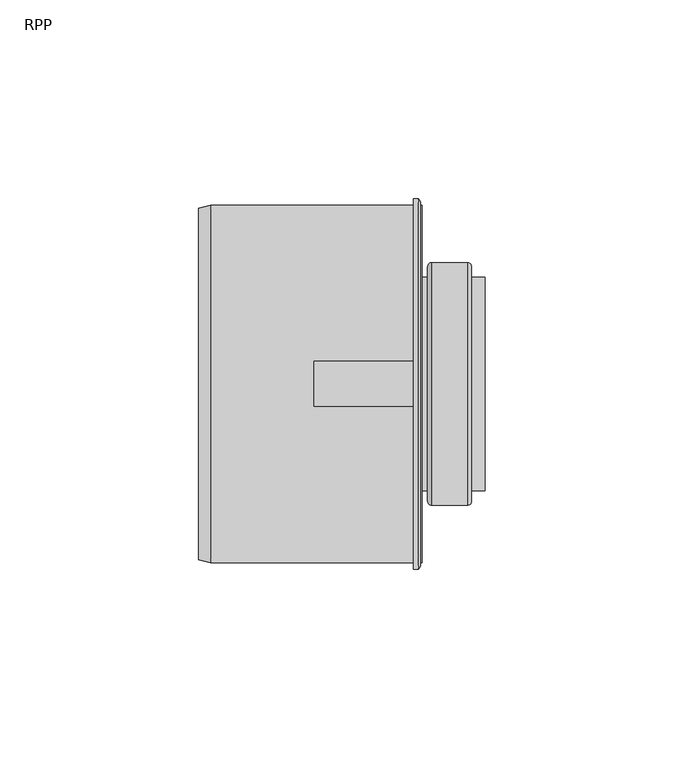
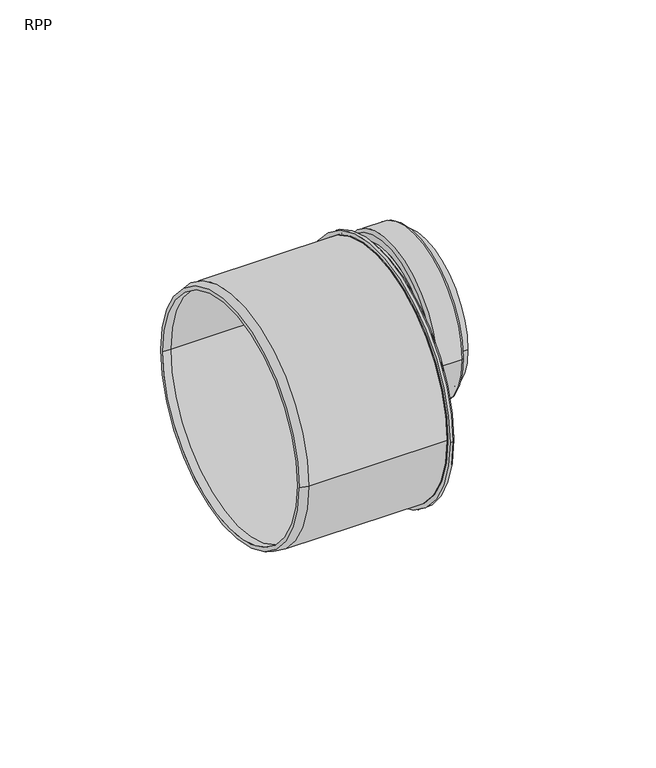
"""IFC4 building model written with IfcOpenShell, lengths in millimetres: pipe fitting geometry, RAUPIANO PLUS Short Reducer : RPP."""

from ifc_helpers import new_model, si_unit, point, frame, frame_2d, origin, origin_2d, place, context, project, spatial, polyline, circle_curve, ellipse_curve, trimmed, segment, composite_curve, outline, extrude, source, transform, mapped, element, save
from ifc_brep_helpers import plane_surface, cylinder_surface, revolved_surface, advanced_brep


def rpp_5c4de2d1(model_context):
    return source(origin(), model_context, "Body", "SolidModel", [
        extrude(outline(composite_curve([segment(trimmed(circle_curve(origin_2d(), 45.0), [point((-45.0, 0.0))], [point((45.0, 0.0))], False, "CARTESIAN"), True, "CONTINUOUS"), segment(trimmed(circle_curve(origin_2d(), 45.0), [point((45.0, 0.0))], [point((-45.0, 0.0))], False, "CARTESIAN"), True, "CONTINUOUS")], self_intersect=False), holes=[composite_curve([segment(trimmed(circle_curve(frame_2d((0.0, 17.8)), 25.0), [point((-25.0, 17.8))], [point((25.0, 17.8))], True, "CARTESIAN"), True, "CONTINUOUS"), segment(trimmed(circle_curve(frame_2d((0.0, 17.8)), 25.0), [point((25.0, 17.8))], [point((-25.0, 17.8))], True, "CARTESIAN"), True, "CONTINUOUS")], self_intersect=False)]), frame((0.0, 0.0, 0.0), z_axis=(1.0, 0.0, 0.0), x_axis=(0.0, 1.0, 0.0)), (0.0, 0.0, 1.0), 2.2),
        advanced_brep(
        [(0.0, 45.0, 0.0), (0.0, -45.0, 0.0), (1.8, -45.0, 0.0), (1.8, 45.0, 0.0), (1.8, 45.8680651, 0.0), (1.8, -45.8680651, 0.0), (0.0, -46.5429328, 0.0), (0.0, 46.5429328, 0.0), (1.2520203, -46.5429328, 0.0), (1.2520203, 46.5429328, 0.0)],
        [
            (0, 1, circle_curve(frame((0.0, 0.0, 0.0), z_axis=(-1.0, 0.0, 0.0), x_axis=(0.0, -1.0, 0.0)), 45.0)),
            (1, 2),
            (2, 3, circle_curve(frame((1.8, 0.0, 0.0), z_axis=(1.0, 0.0, 0.0), x_axis=(0.0, -1.0, 0.0)), 45.0)),
            (3, 0),
            (1, 0, circle_curve(frame((0.0, 0.0, 0.0), z_axis=(-1.0, 0.0, 0.0), x_axis=(0.0, 1.0, 0.0)), 45.0)),
            (3, 2, circle_curve(frame((1.8, 0.0, 0.0), z_axis=(1.0, 0.0, 0.0), x_axis=(0.0, 1.0, 0.0)), 45.0)),
            (4, 5, circle_curve(frame((1.8, 0.0, 0.0), z_axis=(1.0, 0.0, 0.0), x_axis=(0.0, 1.0, 0.0)), 45.8680651)),
            (5, 4, circle_curve(frame((1.8, 0.0, 0.0), z_axis=(1.0, 0.0, 0.0), x_axis=(0.0, -1.0, 0.0)), 45.8680651)),
            (6, 7, circle_curve(frame((0.0, 0.0, 0.0), z_axis=(-1.0, 0.0, 0.0), x_axis=(0.0, 1.0, 0.0)), 46.5429328)),
            (7, 6, circle_curve(frame((0.0, 0.0, 0.0), z_axis=(-1.0, 0.0, 0.0), x_axis=(0.0, -1.0, 0.0)), 46.5429328)),
            (5, 8),
            (8, 9, circle_curve(frame((1.2520203, 0.0, 0.0), z_axis=(1.0, 0.0, 0.0), x_axis=(0.0, -1.0, 0.0)), 46.5429328)),
            (9, 4),
            (8, 6),
            (7, 9),
            (9, 8, circle_curve(frame((1.2520203, 0.0, 0.0), z_axis=(1.0, 0.0, 0.0), x_axis=(0.0, 1.0, 0.0)), 46.5429328)),
        ],
        [
            revolved_surface(polyline([(1.8, -45.0, 0.0), (0.0, -45.0, 0.0)]), (0.0, 0.0, 0.0), (1.0, 0.0, 0.0)),
            revolved_surface(polyline([(1.8, 45.0, 0.0), (0.0, 45.0, 0.0)]), (0.0, 0.0, 0.0), (1.0, 0.0, 0.0)),
            plane_surface(frame((1.8, 0.0, 0.0), z_axis=(1.0, 0.0, 0.0), x_axis=(0.0, 1.0, 0.0))),
            plane_surface(frame((0.0, 0.0, 0.0), z_axis=(-1.0, 0.0, 0.0), x_axis=(0.0, 1.0, 0.0))),
            revolved_surface(polyline([(1.2520203, -46.5429328, 0.0), (1.8, -45.8680651, 0.0)]), (0.0, 0.0, 0.0), (1.0, 0.0, 0.0)),
            cylinder_surface(frame((0.0, 0.0, 0.0), z_axis=(1.0, 0.0, 0.0), x_axis=(0.0, -1.0, 0.0)), 46.5429328),
            revolved_surface(polyline([(1.2520203, 46.5429328, 0.0), (1.8, 45.8680651, 0.0)]), (0.0, 0.0, 0.0), (1.0, 0.0, 0.0)),
            cylinder_surface(frame((0.0, 0.0, 0.0), z_axis=(1.0, 0.0, 0.0), x_axis=(0.0, 1.0, 0.0)), 46.5429328),
        ],
        [
            (0, [[1, 2, 3, 4]]),
            (1, [[5, -4, 6, -2]]),
            (2, [[7, 8], [-6, -3]]),
            (3, [[9, 10], [-5, -1]]),
            (4, [[-8, 11, 12, 13]]),
            (5, [[-12, 14, -10, 15]]),
            (6, [[-7, -13, 16, -11]]),
            (7, [[-16, -15, -9, -14]]),
        ],
    ),
        advanced_brep(
        [(3.6, 26.8, 17.8), (3.6, -26.8, 17.8), (-25.0, -26.8, 17.8), (-25.0, 26.8, 17.8), (18.0, 26.8, 17.8), (18.0, -26.8, 17.8), (14.6, -26.8, 17.8), (14.6, 26.8, 17.8), (12.6, 25.0, 17.8), (12.6, -25.0, 17.8), (18.0, -25.0, 17.8), (18.0, 25.0, 17.8), (-23.2, 25.0, 17.8), (-23.2, -25.0, 17.8), (5.6, -25.0, 17.8), (5.6, 25.0, 17.8), (12.6, -28.5, 17.8), (12.6, 28.5, 17.8), (4.6, 30.5, 17.8), (4.6, -30.5, 17.8), (3.6, -29.5, 17.8), (3.6, 29.5, 17.8), (13.6, 30.5, 17.8), (13.6, -30.5, 17.8), (14.6, 29.5, 17.8), (14.6, -29.5, 17.8), (5.6, 28.5, 17.8), (5.6, -28.5, 17.8), (-25.0, 22.8, 17.8), (-25.0, -22.8, 17.8), (-23.2, -22.8, 17.8), (-23.2, 22.8, 17.8)],
        [
            (0, 1, circle_curve(frame((3.6, 0.0, 17.8), z_axis=(-1.0, 0.0, 0.0), x_axis=(0.0, -1.0, 0.0)), 26.8)),
            (1, 2),
            (2, 3, circle_curve(frame((-25.0, 0.0, 17.8), z_axis=(1.0, 0.0, 0.0), x_axis=(0.0, -1.0, 0.0)), 26.8)),
            (3, 0),
            (4, 5, circle_curve(frame((18.0, 0.0, 17.8), z_axis=(-1.0, 0.0, 0.0), x_axis=(0.0, -1.0, 0.0)), 26.8)),
            (5, 6),
            (6, 7, circle_curve(frame((14.6, 0.0, 17.8), z_axis=(1.0, 0.0, 0.0), x_axis=(0.0, -1.0, 0.0)), 26.8)),
            (7, 4),
            (8, 9, circle_curve(frame((12.6, 0.0, 17.8), z_axis=(-1.0, 0.0, 0.0), x_axis=(0.0, -1.0, 0.0)), 25.0)),
            (9, 10),
            (10, 11, circle_curve(frame((18.0, 0.0, 17.8), z_axis=(1.0, 0.0, 0.0), x_axis=(0.0, -1.0, 0.0)), 25.0)),
            (11, 8),
            (12, 13, circle_curve(frame((-23.2, 0.0, 17.8), z_axis=(-1.0, 0.0, 0.0), x_axis=(0.0, -1.0, 0.0)), 25.0)),
            (13, 14),
            (14, 15, circle_curve(frame((5.6, 0.0, 17.8), z_axis=(1.0, 0.0, 0.0), x_axis=(0.0, -1.0, 0.0)), 25.0)),
            (15, 12),
            (1, 0, circle_curve(frame((3.6, 0.0, 17.8), z_axis=(-1.0, 0.0, 0.0), x_axis=(0.0, 1.0, 0.0)), 26.8)),
            (3, 2, circle_curve(frame((-25.0, 0.0, 17.8), z_axis=(1.0, 0.0, 0.0), x_axis=(0.0, 1.0, 0.0)), 26.8)),
            (5, 4, circle_curve(frame((18.0, 0.0, 17.8), z_axis=(-1.0, 0.0, 0.0), x_axis=(0.0, 1.0, 0.0)), 26.8)),
            (7, 6, circle_curve(frame((14.6, 0.0, 17.8), z_axis=(1.0, 0.0, 0.0), x_axis=(0.0, 1.0, 0.0)), 26.8)),
            (10, 11, circle_curve(frame((18.0, 0.0, 17.8), z_axis=(-1.0, 0.0, 0.0), x_axis=(0.0, 1.0, 0.0)), 25.0)),
            (9, 8, circle_curve(frame((12.6, 0.0, 17.8), z_axis=(-1.0, 0.0, 0.0), x_axis=(0.0, 1.0, 0.0)), 25.0)),
            (13, 12, circle_curve(frame((-23.2, 0.0, 17.8), z_axis=(-1.0, 0.0, 0.0), x_axis=(0.0, 1.0, 0.0)), 25.0)),
            (15, 14, circle_curve(frame((5.6, 0.0, 17.8), z_axis=(1.0, 0.0, 0.0), x_axis=(0.0, 1.0, 0.0)), 25.0)),
            (16, 17, circle_curve(frame((12.6, 0.0, 17.8), z_axis=(-1.0, 0.0, 0.0), x_axis=(0.0, 1.0, 0.0)), 28.5)),
            (17, 16, circle_curve(frame((12.6, 0.0, 17.8), z_axis=(-1.0, 0.0, 0.0), x_axis=(0.0, -1.0, 0.0)), 28.5)),
            (18, 19, circle_curve(frame((4.6, 0.0, 17.8), z_axis=(-1.0, 0.0, 0.0), x_axis=(0.0, -1.0, 0.0)), 30.5)),
            (19, 20, circle_curve(frame((4.6, -29.5, 17.8), z_axis=(0.0, 0.0, -1.0), x_axis=(1.0, 0.0, 0.0)), 1.0)),
            (20, 21, circle_curve(frame((3.6, 0.0, 17.8), z_axis=(1.0, 0.0, 0.0), x_axis=(0.0, -1.0, 0.0)), 29.5)),
            (21, 18, circle_curve(frame((4.6, 29.5, 17.8), z_axis=(0.0, 0.0, -1.0), x_axis=(1.0, 0.0, 0.0)), 1.0)),
            (22, 23, circle_curve(frame((13.6, 0.0, 17.8), z_axis=(-1.0, 0.0, 0.0), x_axis=(0.0, -1.0, 0.0)), 30.5)),
            (23, 19),
            (18, 22),
            (24, 25, circle_curve(frame((14.6, 0.0, 17.8), z_axis=(-1.0, 0.0, 0.0), x_axis=(0.0, -1.0, 0.0)), 29.5)),
            (25, 23, circle_curve(frame((13.6, -29.5, 17.8), z_axis=(0.0, 0.0, -1.0), x_axis=(1.0, 0.0, 0.0)), 1.0)),
            (22, 24, circle_curve(frame((13.6, 29.5, 17.8), z_axis=(0.0, 0.0, -1.0), x_axis=(1.0, 0.0, 0.0)), 1.0)),
            (20, 21, circle_curve(frame((3.6, 0.0, 17.8), z_axis=(-1.0, 0.0, 0.0), x_axis=(0.0, 1.0, 0.0)), 29.5)),
            (19, 18, circle_curve(frame((4.6, 0.0, 17.8), z_axis=(-1.0, 0.0, 0.0), x_axis=(0.0, 1.0, 0.0)), 30.5)),
            (23, 22, circle_curve(frame((13.6, 0.0, 17.8), z_axis=(-1.0, 0.0, 0.0), x_axis=(0.0, 1.0, 0.0)), 30.5)),
            (25, 24, circle_curve(frame((14.6, 0.0, 17.8), z_axis=(-1.0, 0.0, 0.0), x_axis=(0.0, 1.0, 0.0)), 29.5)),
            (26, 27, circle_curve(frame((5.6, 0.0, 17.8), z_axis=(-1.0, 0.0, 0.0), x_axis=(0.0, -1.0, 0.0)), 28.5)),
            (27, 16),
            (17, 26),
            (28, 29, circle_curve(frame((-25.0, 0.0, 17.8), z_axis=(-1.0, 0.0, 0.0), x_axis=(0.0, -1.0, 0.0)), 22.8)),
            (29, 30),
            (30, 31, circle_curve(frame((-23.2, 0.0, 17.8), z_axis=(1.0, 0.0, 0.0), x_axis=(0.0, -1.0, 0.0)), 22.8)),
            (31, 28),
            (27, 26, circle_curve(frame((5.6, 0.0, 17.8), z_axis=(-1.0, 0.0, 0.0), x_axis=(0.0, 1.0, 0.0)), 28.5)),
            (30, 31, circle_curve(frame((-23.2, 0.0, 17.8), z_axis=(-1.0, 0.0, 0.0), x_axis=(0.0, 1.0, 0.0)), 22.8)),
            (29, 28, circle_curve(frame((-25.0, 0.0, 17.8), z_axis=(-1.0, 0.0, 0.0), x_axis=(0.0, 1.0, 0.0)), 22.8)),
        ],
        [
            cylinder_surface(frame((0.0, 0.0, 17.8), z_axis=(1.0, 0.0, 0.0), x_axis=(0.0, -1.0, 0.0)), 26.8),
            revolved_surface(polyline([(18.0, -25.0, 17.8), (12.6, -25.0, 17.8)]), (0.0, 0.0, 17.8), (1.0, 0.0, 0.0)),
            revolved_surface(polyline([(5.6, -25.0, 17.8), (-23.2, -25.0, 17.8)]), (0.0, 0.0, 17.8), (1.0, 0.0, 0.0)),
            cylinder_surface(frame((0.0, 0.0, 17.8), z_axis=(1.0, 0.0, 0.0), x_axis=(0.0, 1.0, 0.0)), 26.8),
            plane_surface(frame((18.0, 0.0, 17.8), z_axis=(1.0, 0.0, 0.0), x_axis=(0.0, 1.0, 0.0))),
            revolved_surface(polyline([(18.0, 25.0, 17.8), (12.6, 25.0, 17.8)]), (0.0, 0.0, 17.8), (1.0, 0.0, 0.0)),
            revolved_surface(polyline([(5.6, 25.0, 17.8), (-23.2, 25.0, 17.8)]), (0.0, 0.0, 17.8), (1.0, 0.0, 0.0)),
            plane_surface(frame((12.6, 0.0, 17.8), z_axis=(-1.0, 0.0, 0.0), x_axis=(0.0, 1.0, 0.0))),
            revolved_surface(trimmed(ellipse_curve(frame((4.6, -29.5, 17.8), z_axis=(0.0, 0.0, 1.0), x_axis=(1.0, 0.0, 0.0)), 1.0, 1.0), [point((3.6, -29.5, 17.8))], [point((4.6, -30.5, 17.8))], True, "CARTESIAN"), (0.0, 0.0, 17.8), (1.0, 0.0, 0.0)),
            cylinder_surface(frame((0.0, 0.0, 17.8), z_axis=(1.0, 0.0, 0.0), x_axis=(0.0, -1.0, 0.0)), 30.5),
            revolved_surface(trimmed(ellipse_curve(frame((13.6, -29.5, 17.8), z_axis=(0.0, 0.0, 1.0), x_axis=(1.0, 0.0, 0.0)), 1.0, 1.0), [point((13.6, -30.5, 17.8))], [point((14.6, -29.5, 17.8))], True, "CARTESIAN"), (0.0, 0.0, 17.8), (1.0, 0.0, 0.0)),
            plane_surface(frame((3.6, 0.0, 17.8), z_axis=(-1.0, 0.0, 0.0), x_axis=(0.0, 1.0, 0.0))),
            revolved_surface(trimmed(ellipse_curve(frame((4.6, 29.5, 17.8), z_axis=(0.0, 0.0, -1.0), x_axis=(1.0, 0.0, 0.0)), 1.0, 1.0), [point((3.6, 29.5, 17.8))], [point((4.6, 30.5, 17.8))], True, "CARTESIAN"), (0.0, 0.0, 17.8), (1.0, 0.0, 0.0)),
            cylinder_surface(frame((0.0, 0.0, 17.8), z_axis=(1.0, 0.0, 0.0), x_axis=(0.0, 1.0, 0.0)), 30.5),
            revolved_surface(trimmed(ellipse_curve(frame((13.6, 29.5, 17.8), z_axis=(0.0, 0.0, -1.0), x_axis=(1.0, 0.0, 0.0)), 1.0, 1.0), [point((13.6, 30.5, 17.8))], [point((14.6, 29.5, 17.8))], True, "CARTESIAN"), (0.0, 0.0, 17.8), (1.0, 0.0, 0.0)),
            plane_surface(frame((14.6, 0.0, 17.8), z_axis=(1.0, 0.0, 0.0), x_axis=(0.0, 1.0, 0.0))),
            revolved_surface(polyline([(12.6, -28.5, 17.8), (5.6, -28.5, 17.8)]), (0.0, 0.0, 17.8), (1.0, 0.0, 0.0)),
            revolved_surface(polyline([(-23.2, -22.8, 17.8), (-25.0, -22.8, 17.8)]), (0.0, 0.0, 17.8), (1.0, 0.0, 0.0)),
            revolved_surface(polyline([(12.6, 28.5, 17.8), (5.6, 28.5, 17.8)]), (0.0, 0.0, 17.8), (1.0, 0.0, 0.0)),
            plane_surface(frame((5.6, 0.0, 17.8), z_axis=(1.0, 0.0, 0.0), x_axis=(0.0, 1.0, 0.0))),
            plane_surface(frame((-23.2, 0.0, 17.8), z_axis=(1.0, 0.0, 0.0), x_axis=(0.0, 1.0, 0.0))),
            revolved_surface(polyline([(-23.2, 22.8, 17.8), (-25.0, 22.8, 17.8)]), (0.0, 0.0, 17.8), (1.0, 0.0, 0.0)),
            plane_surface(frame((-25.0, 0.0, 17.8), z_axis=(-1.0, 0.0, 0.0), x_axis=(0.0, 1.0, 0.0))),
        ],
        [
            (0, [[1, 2, 3, 4]]),
            (0, [[5, 6, 7, 8]]),
            (1, [[9, 10, 11, 12]]),
            (2, [[13, 14, 15, 16]]),
            (3, [[17, -4, 18, -2]]),
            (3, [[19, -8, 20, -6]]),
            (4, [[-19, -5], [21, -11]]),
            (5, [[22, -12, -21, -10]]),
            (6, [[23, -16, 24, -14]]),
            (7, [[25, 26], [-22, -9]]),
            (8, [[27, 28, 29, 30]]),
            (9, [[31, 32, -27, 33]]),
            (10, [[34, 35, -31, 36]]),
            (11, [[37, -29], [-17, -1]]),
            (12, [[38, -30, -37, -28]]),
            (13, [[39, -33, -38, -32]]),
            (14, [[40, -36, -39, -35]]),
            (15, [[-40, -34], [-20, -7]]),
            (16, [[41, 42, -26, 43]]),
            (17, [[44, 45, 46, 47]]),
            (18, [[48, -43, -25, -42]]),
            (19, [[-48, -41], [-24, -15]]),
            (20, [[-23, -13], [49, -46]]),
            (21, [[50, -47, -49, -45]]),
            (22, [[-18, -3], [-50, -44]]),
        ],
    ),
        advanced_brep(
        [(-51.0, 42.8, 0.0), (-51.0, -42.8, 0.0), (0.0, -42.8, 0.0), (0.0, 42.8, 0.0), (-54.0, 42.8, 0.0), (-54.0, -42.8, 0.0), (-51.0, 45.0, 0.0), (-51.0, -45.0, 0.0), (-54.0, -44.1961524, 0.0), (-54.0, 44.1961524, 0.0), (0.0, 45.0, 0.0), (0.0, -45.0, 0.0)],
        [
            (0, 1, circle_curve(frame((-51.0, 0.0, 0.0), z_axis=(-1.0, 0.0, 0.0), x_axis=(0.0, -1.0, 0.0)), 42.8)),
            (1, 2),
            (2, 3, circle_curve(frame((0.0, 0.0, 0.0), z_axis=(1.0, 0.0, 0.0), x_axis=(0.0, -1.0, 0.0)), 42.8)),
            (3, 0),
            (4, 5, circle_curve(frame((-54.0, 0.0, 0.0), z_axis=(-1.0, 0.0, 0.0), x_axis=(0.0, -1.0, 0.0)), 42.8)),
            (5, 1),
            (0, 4),
            (6, 7, circle_curve(frame((-51.0, 0.0, 0.0), z_axis=(-1.0, 0.0, 0.0), x_axis=(0.0, -1.0, 0.0)), 45.0)),
            (7, 8),
            (8, 9, circle_curve(frame((-54.0, 0.0, 0.0), z_axis=(1.0, 0.0, 0.0), x_axis=(0.0, -1.0, 0.0)), 44.1961524)),
            (9, 6),
            (10, 11, circle_curve(frame((0.0, 0.0, 0.0), z_axis=(-1.0, 0.0, 0.0), x_axis=(0.0, -1.0, 0.0)), 45.0)),
            (11, 7),
            (6, 10),
            (10, 11, circle_curve(frame((0.0, 0.0, 0.0), z_axis=(1.0, 0.0, 0.0), x_axis=(0.0, 1.0, 0.0)), 45.0)),
            (2, 3, circle_curve(frame((0.0, 0.0, 0.0), z_axis=(-1.0, 0.0, 0.0), x_axis=(0.0, 1.0, 0.0)), 42.8)),
            (1, 0, circle_curve(frame((-51.0, 0.0, 0.0), z_axis=(-1.0, 0.0, 0.0), x_axis=(0.0, 1.0, 0.0)), 42.8)),
            (5, 4, circle_curve(frame((-54.0, 0.0, 0.0), z_axis=(-1.0, 0.0, 0.0), x_axis=(0.0, 1.0, 0.0)), 42.8)),
            (8, 9, circle_curve(frame((-54.0, 0.0, 0.0), z_axis=(-1.0, 0.0, 0.0), x_axis=(0.0, 1.0, 0.0)), 44.1961524)),
            (7, 6, circle_curve(frame((-51.0, 0.0, 0.0), z_axis=(-1.0, 0.0, 0.0), x_axis=(0.0, 1.0, 0.0)), 45.0)),
        ],
        [
            revolved_surface(polyline([(0.0, -42.8, 0.0), (-51.0, -42.8, 0.0)]), (0.0, 0.0, 0.0), (1.0, 0.0, 0.0)),
            revolved_surface(polyline([(-51.0, -42.8, 0.0), (-54.0, -42.8, 0.0)]), (0.0, 0.0, 0.0), (1.0, 0.0, 0.0)),
            revolved_surface(polyline([(-54.0, -44.1961524, 0.0), (-51.0, -45.0, 0.0)]), (0.0, 0.0, 0.0), (1.0, 0.0, 0.0)),
            cylinder_surface(frame((0.0, 0.0, 0.0), z_axis=(1.0, 0.0, 0.0), x_axis=(0.0, -1.0, 0.0)), 45.0),
            plane_surface(frame((0.0, 0.0, 0.0), z_axis=(1.0, 0.0, 0.0), x_axis=(0.0, 1.0, 0.0))),
            revolved_surface(polyline([(0.0, 42.8, 0.0), (-51.0, 42.8, 0.0)]), (0.0, 0.0, 0.0), (1.0, 0.0, 0.0)),
            revolved_surface(polyline([(-51.0, 42.8, 0.0), (-54.0, 42.8, 0.0)]), (0.0, 0.0, 0.0), (1.0, 0.0, 0.0)),
            plane_surface(frame((-54.0, 0.0, 0.0), z_axis=(-1.0, 0.0, 0.0), x_axis=(0.0, 1.0, 0.0))),
            revolved_surface(polyline([(-54.0, 44.1961524, 0.0), (-51.0, 45.0, 0.0)]), (0.0, 0.0, 0.0), (1.0, 0.0, 0.0)),
            cylinder_surface(frame((0.0, 0.0, 0.0), z_axis=(1.0, 0.0, 0.0), x_axis=(0.0, 1.0, 0.0)), 45.0),
        ],
        [
            (0, [[1, 2, 3, 4]]),
            (1, [[5, 6, -1, 7]]),
            (2, [[8, 9, 10, 11]]),
            (3, [[12, 13, -8, 14]]),
            (4, [[15, -12], [16, -3]]),
            (5, [[17, -4, -16, -2]]),
            (6, [[18, -7, -17, -6]]),
            (7, [[19, -10], [-18, -5]]),
            (8, [[20, -11, -19, -9]]),
            (9, [[-15, -14, -20, -13]]),
        ],
    ),
    ])


if __name__ == "__main__":
    model = new_model("IFC4")
    model_context = context("Model", 3, world=origin())
    ifc_project = project(units=[si_unit("LENGTHUNIT", "METRE", prefix="MILLI")], contexts=[model_context])
    site = spatial("IfcSite", under=ifc_project)
    building = spatial("IfcBuilding", under=site)
    placement = place(None, origin())
    rpp_shape = rpp_5c4de2d1(model_context)
    element("IfcPipeFitting", 1, ObjectType="RAUPIANO PLUS Short Reducer : RPP", at=placement, inside=building, context=model_context, shape_type="MappedRepresentation", body=[
        mapped(rpp_shape, transform((0.0, 0.0, 0.0), x_axis=(1.0, 0.0, 0.0), y_axis=(0.0, 1.0, 0.0), z_axis=(0.0, 0.0, 1.0))),
    ])
    save(model, "model.ifc")
